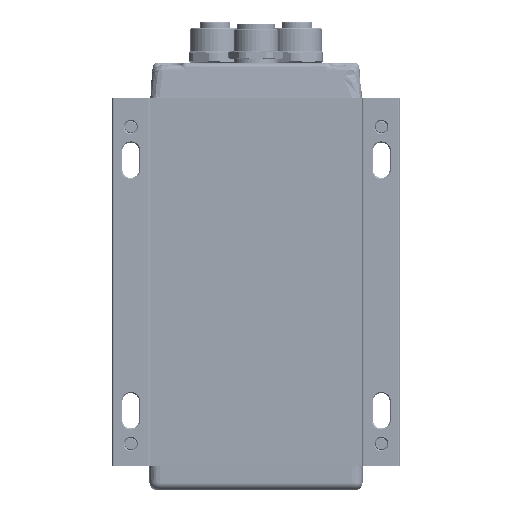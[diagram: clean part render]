
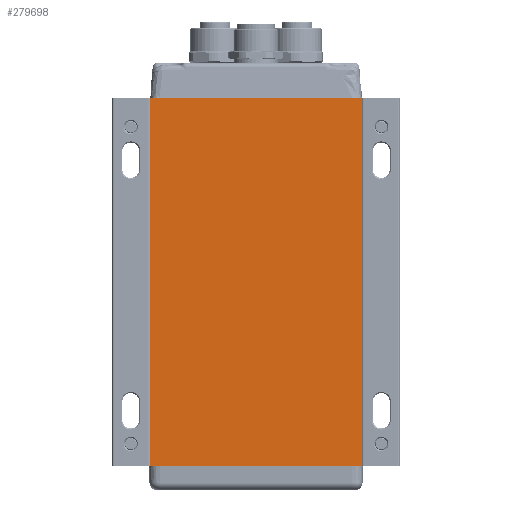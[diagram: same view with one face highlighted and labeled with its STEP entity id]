
A CAD part, front view. The second image highlights one B-rep face of the part: STEP entity #279698.
In plain terms, the highlighted planar face has unit normal (0, -1, 0).
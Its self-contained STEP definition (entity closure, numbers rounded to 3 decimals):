
#11742 = CARTESIAN_POINT ( 'NONE',  ( -28.8, -23.5, 0. ) ) ;
#15320 = ORIENTED_EDGE ( 'NONE', *, *, #187380, .T. ) ;
#27402 = CARTESIAN_POINT ( 'NONE',  ( 29., -23.5, 0. ) ) ;
#42959 = LINE ( 'NONE', #27402, #158349 ) ;
#52651 = DIRECTION ( 'NONE',  ( -1., 0., 0. ) ) ;
#58058 = CARTESIAN_POINT ( 'NONE',  ( -28.8, -23.5, 100. ) ) ;
#82663 = DIRECTION ( 'NONE',  ( 0., 0., 1. ) ) ;
#88673 = DIRECTION ( 'NONE',  ( 0., 0., -1. ) ) ;
#94760 = ORIENTED_EDGE ( 'NONE', *, *, #162298, .T. ) ;
#98217 = DIRECTION ( 'NONE',  ( 0., 1., 0. ) ) ;
#104798 = VERTEX_POINT ( 'NONE', #175468 ) ;
#135823 = CARTESIAN_POINT ( 'NONE',  ( -28.8, -23.5, 0. ) ) ;
#145023 = ORIENTED_EDGE ( 'NONE', *, *, #245486, .T. ) ;
#150966 = VECTOR ( 'NONE', #82663, 1000. ) ;
#151246 = CARTESIAN_POINT ( 'NONE',  ( 28.8, -23.5, 100. ) ) ;
#153630 = LINE ( 'NONE', #135823, #200404 ) ;
#154801 = VERTEX_POINT ( 'NONE', #58058 ) ;
#158349 = VECTOR ( 'NONE', #259929, 1000. ) ;
#160685 = VERTEX_POINT ( 'NONE', #11742 ) ;
#162298 = EDGE_CURVE ( 'NONE', #180514, #104798, #219342, .T. ) ;
#175468 = CARTESIAN_POINT ( 'NONE',  ( 28.8, -23.5, 100. ) ) ;
#176582 = CARTESIAN_POINT ( 'NONE',  ( 28.8, -23.5, 0. ) ) ;
#176600 = LINE ( 'NONE', #285209, #299053 ) ;
#180514 = VERTEX_POINT ( 'NONE', #176582 ) ;
#187380 = EDGE_CURVE ( 'NONE', #154801, #160685, #153630, .T. ) ;
#193549 = EDGE_LOOP ( 'NONE', ( #296198, #15320, #145023, #94760 ) ) ;
#200404 = VECTOR ( 'NONE', #88673, 1000. ) ;
#219342 = LINE ( 'NONE', #151246, #150966 ) ;
#236159 = CARTESIAN_POINT ( 'NONE',  ( 29., -23.5, 100.5 ) ) ;
#243892 = EDGE_CURVE ( 'NONE', #104798, #154801, #176600, .T. ) ;
#245486 = EDGE_CURVE ( 'NONE', #160685, #180514, #42959, .T. ) ;
#257306 = PLANE ( 'NONE',  #295926 ) ;
#259278 = DIRECTION ( 'NONE',  ( -1., 0., 0. ) ) ;
#259929 = DIRECTION ( 'NONE',  ( 1., 0., 0. ) ) ;
#279698 = ADVANCED_FACE ( 'NONE', ( #285596 ), #257306, .F. ) ;
#285209 = CARTESIAN_POINT ( 'NONE',  ( 29., -23.5, 100. ) ) ;
#285596 = FACE_OUTER_BOUND ( 'NONE', #193549, .T. ) ;
#295926 = AXIS2_PLACEMENT_3D ( 'NONE', #236159, #98217, #259278 ) ;
#296198 = ORIENTED_EDGE ( 'NONE', *, *, #243892, .T. ) ;
#299053 = VECTOR ( 'NONE', #52651, 1000. ) ;
